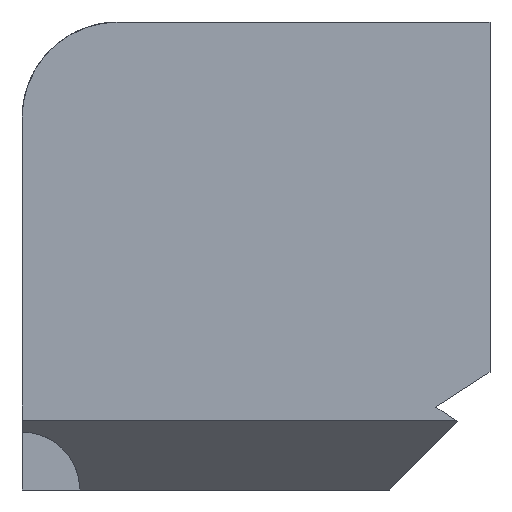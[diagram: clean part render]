
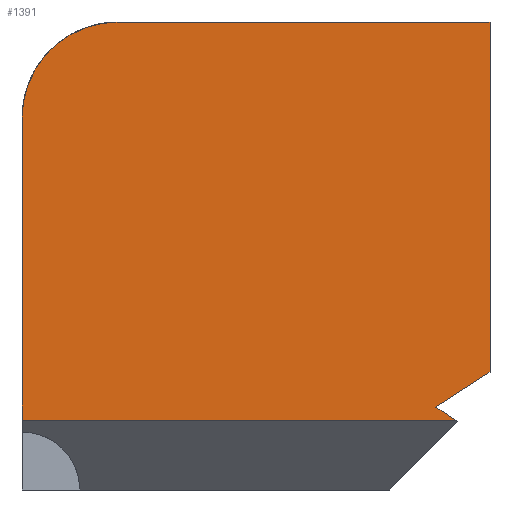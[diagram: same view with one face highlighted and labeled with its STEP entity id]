
A CAD part, left-side view. The second image highlights one B-rep face of the part: STEP entity #1391.
In plain terms, the highlighted planar face has unit normal (-1, 0, 0).
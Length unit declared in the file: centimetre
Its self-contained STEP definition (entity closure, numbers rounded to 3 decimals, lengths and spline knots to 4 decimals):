
#6 = EDGE_CURVE ( 'NONE', #1217, #771, #1149, .T. ) ;
#9 = CARTESIAN_POINT ( 'NONE',  ( 0., 0., 101.5847 ) ) ;
#54 = DIRECTION ( 'NONE',  ( 0., 0., -1. ) ) ;
#64 = DIRECTION ( 'NONE',  ( 0., -1., 0. ) ) ;
#85 = ORIENTED_EDGE ( 'NONE', *, *, #1220, .F. ) ;
#86 = DIRECTION ( 'NONE',  ( -1., 0., 0. ) ) ;
#104 = LINE ( 'NONE', #1355, #832 ) ;
#109 = VERTEX_POINT ( 'NONE', #1270 ) ;
#114 = VECTOR ( 'NONE', #220, 100. ) ;
#125 = CIRCLE ( 'NONE', #202, 205.2884 ) ;
#129 = EDGE_CURVE ( 'NONE', #130, #279, #236, .T. ) ;
#130 = VERTEX_POINT ( 'NONE', #1395 ) ;
#142 = VECTOR ( 'NONE', #450, 100. ) ;
#149 = VERTEX_POINT ( 'NONE', #1367 ) ;
#195 = ORIENTED_EDGE ( 'NONE', *, *, #1099, .F. ) ;
#202 = AXIS2_PLACEMENT_3D ( 'NONE', #769, #86, #1239 ) ;
#205 = CARTESIAN_POINT ( 'NONE',  ( 0., 115.6969, 176.8083 ) ) ;
#220 = DIRECTION ( 'NONE',  ( 0., 0.838, -0.545 ) ) ;
#221 = LINE ( 'NONE', #316, #540 ) ;
#236 = LINE ( 'NONE', #205, #114 ) ;
#279 = VERTEX_POINT ( 'NONE', #392 ) ;
#287 = EDGE_CURVE ( 'NONE', #279, #109, #376, .T. ) ;
#296 = LINE ( 'NONE', #1340, #737 ) ;
#316 = CARTESIAN_POINT ( 'NONE',  ( 0., 1000., 1000. ) ) ;
#376 = LINE ( 'NONE', #9, #400 ) ;
#392 = CARTESIAN_POINT ( 'NONE',  ( 0., 115.6969, 176.8083 ) ) ;
#400 = VECTOR ( 'NONE', #822, 100. ) ;
#414 = CARTESIAN_POINT ( 'NONE',  ( 0., 0., 1000. ) ) ;
#427 = ORIENTED_EDGE ( 'NONE', *, *, #1116, .T. ) ;
#450 = DIRECTION ( 'NONE',  ( 0., 0., -1. ) ) ;
#540 = VECTOR ( 'NONE', #1243, 100. ) ;
#638 = PLANE ( 'NONE',  #1296 ) ;
#653 = CARTESIAN_POINT ( 'NONE',  ( 0., 1000., 149.4754 ) ) ;
#674 = DIRECTION ( 'NONE',  ( 0., 0., -1. ) ) ;
#737 = VECTOR ( 'NONE', #64, 100. ) ;
#738 = VERTEX_POINT ( 'NONE', #414 ) ;
#769 = CARTESIAN_POINT ( 'NONE',  ( 0., 794.7116, 794.7116 ) ) ;
#771 = VERTEX_POINT ( 'NONE', #653 ) ;
#795 = CARTESIAN_POINT ( 'NONE',  ( 0., 1000., 794.7116 ) ) ;
#822 = DIRECTION ( 'NONE',  ( 0., -0.838, -0.545 ) ) ;
#832 = VECTOR ( 'NONE', #674, 100. ) ;
#851 = EDGE_CURVE ( 'NONE', #771, #109, #296, .T. ) ;
#1099 = EDGE_CURVE ( 'NONE', #149, #738, #221, .T. ) ;
#1102 = CARTESIAN_POINT ( 'NONE',  ( 0., 1000., 1000. ) ) ;
#1116 = EDGE_CURVE ( 'NONE', #149, #1217, #125, .T. ) ;
#1149 = LINE ( 'NONE', #1510, #142 ) ;
#1185 = EDGE_LOOP ( 'NONE', ( #1187, #1362, #1481, #85, #195, #427, #1301 ) ) ;
#1187 = ORIENTED_EDGE ( 'NONE', *, *, #851, .T. ) ;
#1217 = VERTEX_POINT ( 'NONE', #795 ) ;
#1220 = EDGE_CURVE ( 'NONE', #738, #130, #104, .T. ) ;
#1239 = DIRECTION ( 'NONE',  ( 0., 0., -1. ) ) ;
#1243 = DIRECTION ( 'NONE',  ( 0., -1., 0. ) ) ;
#1252 = FACE_OUTER_BOUND ( 'NONE', #1185, .T. ) ;
#1270 = CARTESIAN_POINT ( 'NONE',  ( 0., 73.6579, 149.4754 ) ) ;
#1296 = AXIS2_PLACEMENT_3D ( 'NONE', #1102, #1351, #54 ) ;
#1301 = ORIENTED_EDGE ( 'NONE', *, *, #6, .T. ) ;
#1340 = CARTESIAN_POINT ( 'NONE',  ( 0., 1000., 149.4754 ) ) ;
#1351 = DIRECTION ( 'NONE',  ( 1., 0., 0. ) ) ;
#1355 = CARTESIAN_POINT ( 'NONE',  ( 0., 0., 1000. ) ) ;
#1362 = ORIENTED_EDGE ( 'NONE', *, *, #287, .F. ) ;
#1367 = CARTESIAN_POINT ( 'NONE',  ( 0., 794.7116, 1000. ) ) ;
#1391 = ADVANCED_FACE ( 'NONE', ( #1252 ), #638, .F. ) ;
#1395 = CARTESIAN_POINT ( 'NONE',  ( 0., 0., 252.0318 ) ) ;
#1481 = ORIENTED_EDGE ( 'NONE', *, *, #129, .F. ) ;
#1510 = CARTESIAN_POINT ( 'NONE',  ( 0., 1000., 1000. ) ) ;
